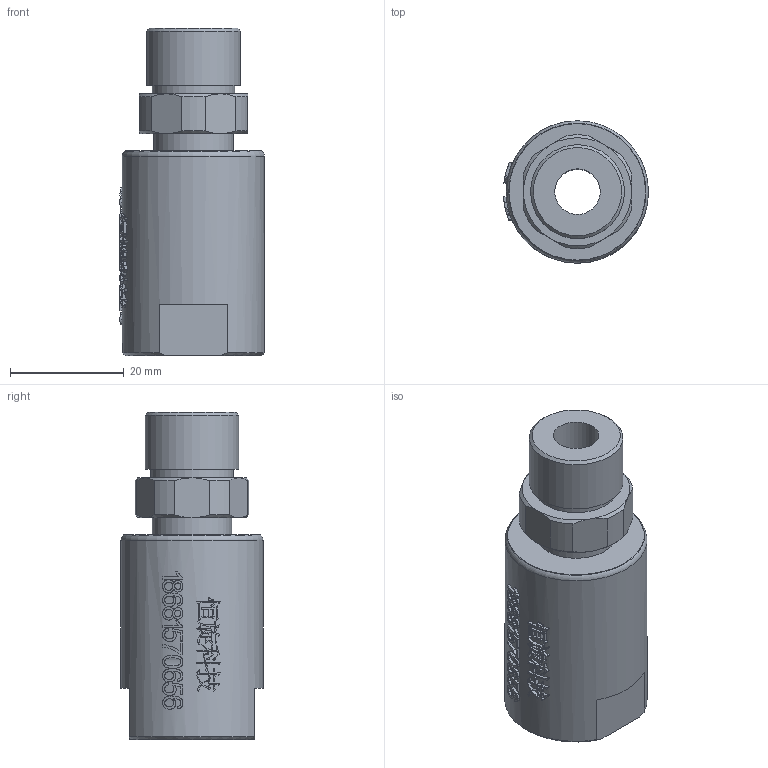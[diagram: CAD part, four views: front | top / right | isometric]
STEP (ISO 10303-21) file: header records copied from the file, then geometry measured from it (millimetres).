
FILE_DESCRIPTION(/* description */ (''),/* implementation_level */ '2;1');
FILE_NAME(/* name */ 'HY0103.stp',/* time_stamp */ '2025-09-27T18:10:27+08:00',/* author */ (''),/* organization */ (''),/* preprocessor_version */ 'ST-DEVELOPER v16.7',/* originating_system */ 'SIEMENS PLM Software NX 12.0',/* authorisation */ '');
FILE_SCHEMA (('AUTOMOTIVE_DESIGN { 1 0 10303 214 3 1 1 1 }'));
Length unit declared in the file: millimetre
Products named in the file (1): Admi2B88A56288eh
Bounding box: 25.47 x 25 x 57.5 mm (x, y, z)
Volume: 17973.2 mm3; surface area: 7021.7 mm2
Topology: 1 solids, 1 shells, 577 faces, 1582 edges, 1050 vertices
Faces by surface type: extrusion 311, plane 199, bspline 26, cylinder 23, cone 17, torus 1
Full cylindrical faces by diameter (mm): 8 x1, 14 x1, 14.5 x1, 15 x1, 16.5 x1, 25 x1
Entity records: 23946 total; most frequent: CARTESIAN_POINT 11738, ORIENTED_EDGE 3140, B_SPLINE_CURVE_WITH_KNOTS 1585, EDGE_CURVE 1570, DIRECTION 1267, VERTEX_POINT 1048, EDGE_LOOP 632, ADVANCED_FACE 577
